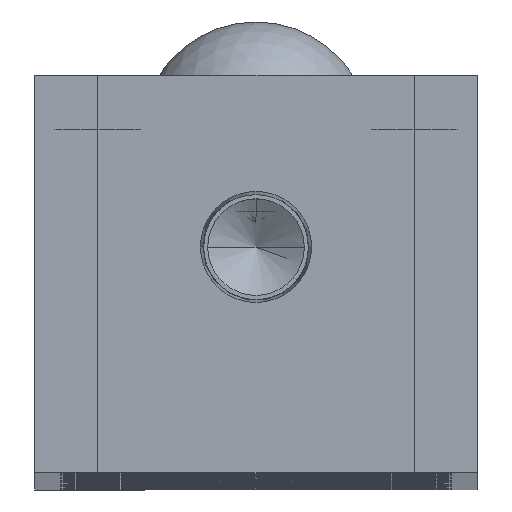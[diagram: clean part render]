
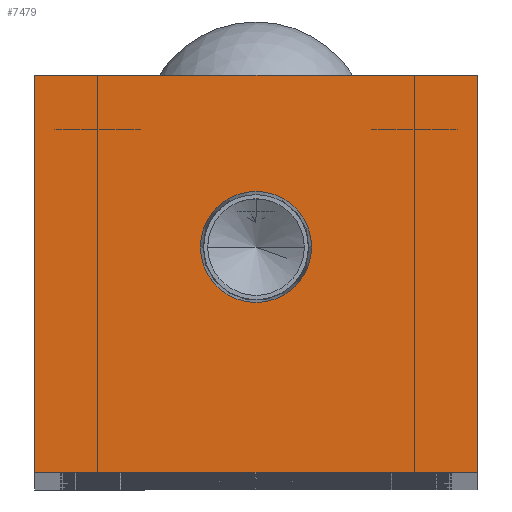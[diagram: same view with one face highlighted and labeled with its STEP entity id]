
A CAD part, top view. The second image highlights one B-rep face of the part: STEP entity #7479.
In plain terms, the highlighted planar face has unit normal (0, 0, 1).
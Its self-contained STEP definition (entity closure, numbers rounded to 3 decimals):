
#649 = VERTEX_POINT ( 'NONE', #2167 ) ;
#733 = ORIENTED_EDGE ( 'NONE', *, *, #24395, .T. ) ;
#1066 = CIRCLE ( 'NONE', #13395, 6.154 ) ;
#2061 = CARTESIAN_POINT ( 'NONE',  ( -24.5, 44., 0. ) ) ;
#2167 = CARTESIAN_POINT ( 'NONE',  ( 24.5, 0., 0. ) ) ;
#2914 = FACE_OUTER_BOUND ( 'NONE', #22654, .T. ) ;
#3608 = AXIS2_PLACEMENT_3D ( 'NONE', #18113, #5039, #20335 ) ;
#3812 = ORIENTED_EDGE ( 'NONE', *, *, #4858, .T. ) ;
#4141 = DIRECTION ( 'NONE',  ( 0., 0., 1. ) ) ;
#4440 = DIRECTION ( 'NONE',  ( 0., 0., -1. ) ) ;
#4858 = EDGE_CURVE ( 'NONE', #649, #19916, #17120, .T. ) ;
#5039 = DIRECTION ( 'NONE',  ( 0., 0., 1. ) ) ;
#5353 = LINE ( 'NONE', #11915, #16970 ) ;
#5908 = EDGE_CURVE ( 'NONE', #22745, #19524, #5353, .T. ) ;
#6634 = VECTOR ( 'NONE', #21681, 1000. ) ;
#7270 = CARTESIAN_POINT ( 'NONE',  ( 24.5, 44., 0. ) ) ;
#7479 = ADVANCED_FACE ( 'NONE', ( #25510, #2914 ), #15345, .F. ) ;
#9642 = VERTEX_POINT ( 'NONE', #17854 ) ;
#11759 = EDGE_CURVE ( 'NONE', #9642, #22944, #1066, .T. ) ;
#11915 = CARTESIAN_POINT ( 'NONE',  ( -24.5, 0., 0. ) ) ;
#13160 = CARTESIAN_POINT ( 'NONE',  ( 0., 0., 0. ) ) ;
#13395 = AXIS2_PLACEMENT_3D ( 'NONE', #17220, #4141, #19432 ) ;
#14908 = EDGE_CURVE ( 'NONE', #22944, #9642, #28004, .T. ) ;
#15345 = PLANE ( 'NONE',  #25772 ) ;
#15891 = VECTOR ( 'NONE', #22823, 1000. ) ;
#16697 = EDGE_CURVE ( 'NONE', #19916, #22745, #17561, .T. ) ;
#16970 = VECTOR ( 'NONE', #27241, 1000. ) ;
#17120 = LINE ( 'NONE', #21331, #28118 ) ;
#17220 = CARTESIAN_POINT ( 'NONE',  ( 0., 25., 0. ) ) ;
#17420 = ORIENTED_EDGE ( 'NONE', *, *, #16697, .T. ) ;
#17561 = LINE ( 'NONE', #2061, #6634 ) ;
#17854 = CARTESIAN_POINT ( 'NONE',  ( -6.154, 25., 0. ) ) ;
#18113 = CARTESIAN_POINT ( 'NONE',  ( 0., 25., 0. ) ) ;
#18968 = ORIENTED_EDGE ( 'NONE', *, *, #5908, .T. ) ;
#19068 = ORIENTED_EDGE ( 'NONE', *, *, #11759, .F. ) ;
#19432 = DIRECTION ( 'NONE',  ( 1., 0., 0. ) ) ;
#19524 = VERTEX_POINT ( 'NONE', #25468 ) ;
#19739 = DIRECTION ( 'NONE',  ( -1., 0., 0. ) ) ;
#19916 = VERTEX_POINT ( 'NONE', #7270 ) ;
#20335 = DIRECTION ( 'NONE',  ( 1., 0., 0. ) ) ;
#20590 = CARTESIAN_POINT ( 'NONE',  ( 24.5, 0., 0. ) ) ;
#21331 = CARTESIAN_POINT ( 'NONE',  ( 24.5, 44., 0. ) ) ;
#21681 = DIRECTION ( 'NONE',  ( -1., 0., 0. ) ) ;
#21994 = EDGE_LOOP ( 'NONE', ( #24162, #19068 ) ) ;
#22654 = EDGE_LOOP ( 'NONE', ( #18968, #733, #3812, #17420 ) ) ;
#22745 = VERTEX_POINT ( 'NONE', #25012 ) ;
#22823 = DIRECTION ( 'NONE',  ( 1., 0., 0. ) ) ;
#22944 = VERTEX_POINT ( 'NONE', #25759 ) ;
#24162 = ORIENTED_EDGE ( 'NONE', *, *, #14908, .F. ) ;
#24395 = EDGE_CURVE ( 'NONE', #19524, #649, #27551, .T. ) ;
#25012 = CARTESIAN_POINT ( 'NONE',  ( -24.5, 44., 0. ) ) ;
#25468 = CARTESIAN_POINT ( 'NONE',  ( -24.5, 0., 0. ) ) ;
#25510 = FACE_BOUND ( 'NONE', #21994, .T. ) ;
#25728 = DIRECTION ( 'NONE',  ( 0., 1., 0. ) ) ;
#25759 = CARTESIAN_POINT ( 'NONE',  ( 6.154, 25., 0. ) ) ;
#25772 = AXIS2_PLACEMENT_3D ( 'NONE', #13160, #4440, #19739 ) ;
#27241 = DIRECTION ( 'NONE',  ( 0., -1., 0. ) ) ;
#27551 = LINE ( 'NONE', #20590, #15891 ) ;
#28004 = CIRCLE ( 'NONE', #3608, 6.154 ) ;
#28118 = VECTOR ( 'NONE', #25728, 1000. ) ;
